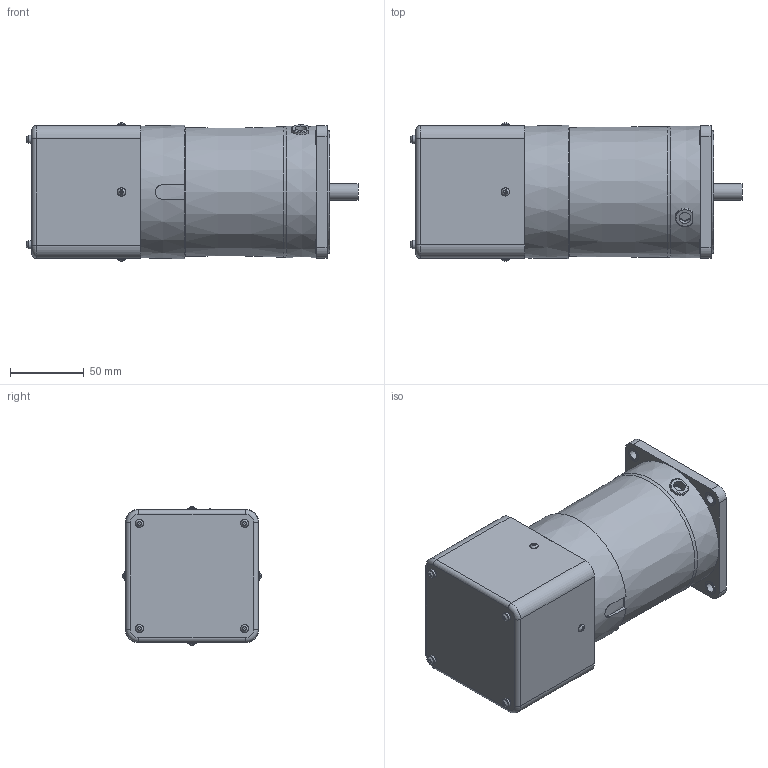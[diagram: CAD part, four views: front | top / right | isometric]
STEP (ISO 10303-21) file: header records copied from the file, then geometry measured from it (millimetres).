
FILE_DESCRIPTION((''),'2;1');
FILE_NAME('D:\STP파일\60W MOTOR\ES TYPE\S9I60G-ES.stp','2013-05-20T18:06:49',('leebh'),(''),'Autodesk Inventor 2011','Autodesk Inventor 2011','');
FILE_SCHEMA(('AUTOMOTIVE_DESIGN { 1 0 10303 214 1 1 1 1 }'));
Length unit declared in the file: millimetre
Products named in the file (1): 부품1
Bounding box: 225.25 x 93.89 x 93.89 mm (x, y, z)
Volume: 1127995.8 mm3; surface area: 112640 mm2
Topology: 1 solids, 7 shells, 291 faces, 695 edges, 448 vertices
Faces by surface type: plane 177, cylinder 72, torus 26, cone 8, bspline 8
Full cylindrical faces by diameter (mm): 3 x8, 4.5 x4, 5.6 x12, 6.5 x4, 8 x1, 9.5 x4, 10 x1, 11.5 x1, 40 x1, 83 x1, 86 x1
Entity records: 8783 total; most frequent: CARTESIAN_POINT 2277, DIRECTION 1250, ORIENTED_EDGE 1216, EDGE_CURVE 608, AXIS2_PLACEMENT_3D 462, VERTEX_POINT 433, EDGE_LOOP 409, VECTOR 326
